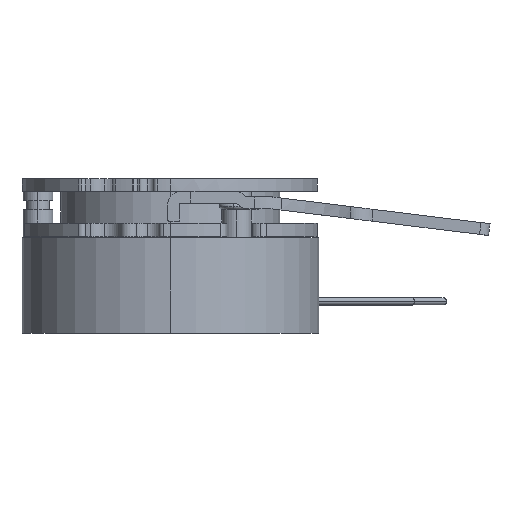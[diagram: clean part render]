
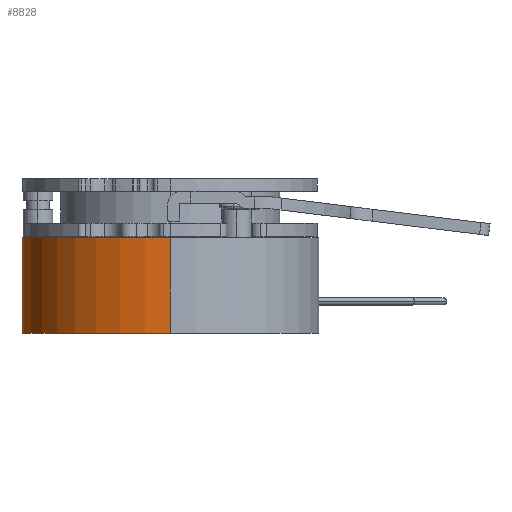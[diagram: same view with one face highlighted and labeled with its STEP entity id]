
A CAD part, left-side view. The second image highlights one B-rep face of the part: STEP entity #8828.
In plain terms, the highlighted cylindrical face has radius 32.5 mm (diameter 65 mm), a partial arc.
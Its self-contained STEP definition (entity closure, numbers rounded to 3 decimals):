
#5647 = EDGE_CURVE ( 'NONE', #11969, #11587, #7419, .T. ) ;
#5650 = EDGE_CURVE ( 'NONE', #9905, #11587, #7423, .T. ) ;
#5653 = EDGE_CURVE ( 'NONE', #9904, #9905, #7428, .T. ) ;
#7419 = CIRCLE ( 'NONE', #10027, 32.5 ) ;
#7423 = LINE ( 'NONE', #7991, #7426 ) ;
#7426 = VECTOR ( 'NONE', #7992, 1000. ) ;
#7428 = CIRCLE ( 'NONE', #10031, 32.5 ) ;
#7984 = CARTESIAN_POINT ( 'NONE',  ( 0., 0., 0. ) ) ;
#7985 = DIRECTION ( 'NONE',  ( 0., 0., 1. ) ) ;
#7986 = DIRECTION ( 'NONE',  ( 1., 0., 0. ) ) ;
#7991 = CARTESIAN_POINT ( 'NONE',  ( -32.5, 0., 21. ) ) ;
#7992 = DIRECTION ( 'NONE',  ( 0., 0., -1. ) ) ;
#7999 = CARTESIAN_POINT ( 'NONE',  ( 0., 0., 21. ) ) ;
#8000 = DIRECTION ( 'NONE',  ( 0., 0., 1. ) ) ;
#8001 = DIRECTION ( 'NONE',  ( 1., 0., 0. ) ) ;
#8828 = ADVANCED_FACE ( 'NONE', ( #13655 ), #13663, .T. ) ;
#9904 = VERTEX_POINT ( 'NONE', #15325 ) ;
#9905 = VERTEX_POINT ( 'NONE', #15326 ) ;
#10027 = AXIS2_PLACEMENT_3D ( 'NONE', #7984, #7985, #7986 ) ;
#10031 = AXIS2_PLACEMENT_3D ( 'NONE', #7999, #8000, #8001 ) ;
#10508 = ORIENTED_EDGE ( 'NONE', *, *, #5653, .F. ) ;
#10509 = ORIENTED_EDGE ( 'NONE', *, *, #18470, .T. ) ;
#10510 = ORIENTED_EDGE ( 'NONE', *, *, #5647, .T. ) ;
#10511 = ORIENTED_EDGE ( 'NONE', *, *, #5650, .F. ) ;
#11587 = VERTEX_POINT ( 'NONE', #17009 ) ;
#11969 = VERTEX_POINT ( 'NONE', #17586 ) ;
#12931 = CARTESIAN_POINT ( 'NONE',  ( 0., 0., 21. ) ) ;
#12932 = DIRECTION ( 'NONE',  ( 0., 0., -1. ) ) ;
#12940 = DIRECTION ( 'NONE',  ( -1., 0., 0. ) ) ;
#13655 = FACE_OUTER_BOUND ( 'NONE', #18693, .T. ) ;
#13663 = CYLINDRICAL_SURFACE ( 'NONE', #14007, 32.5 ) ;
#14007 = AXIS2_PLACEMENT_3D ( 'NONE', #12931, #12932, #12940 ) ;
#15325 = CARTESIAN_POINT ( 'NONE',  ( 32.5, 0., 21. ) ) ;
#15326 = CARTESIAN_POINT ( 'NONE',  ( -32.5, 0., 21. ) ) ;
#16167 = LINE ( 'NONE', #17991, #16169 ) ;
#16169 = VECTOR ( 'NONE', #17992, 1000. ) ;
#17009 = CARTESIAN_POINT ( 'NONE',  ( -32.5, 0., 0. ) ) ;
#17586 = CARTESIAN_POINT ( 'NONE',  ( 32.5, 0., 0. ) ) ;
#17991 = CARTESIAN_POINT ( 'NONE',  ( 32.5, 0., 21. ) ) ;
#17992 = DIRECTION ( 'NONE',  ( 0., 0., -1. ) ) ;
#18470 = EDGE_CURVE ( 'NONE', #9904, #11969, #16167, .T. ) ;
#18693 = EDGE_LOOP ( 'NONE', ( #10508, #10509, #10510, #10511 ) ) ;
